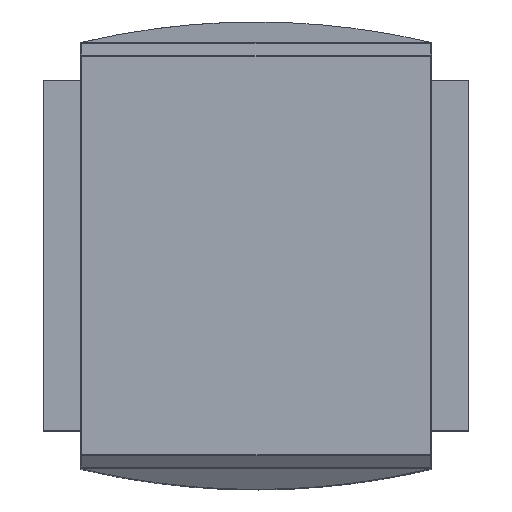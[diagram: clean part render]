
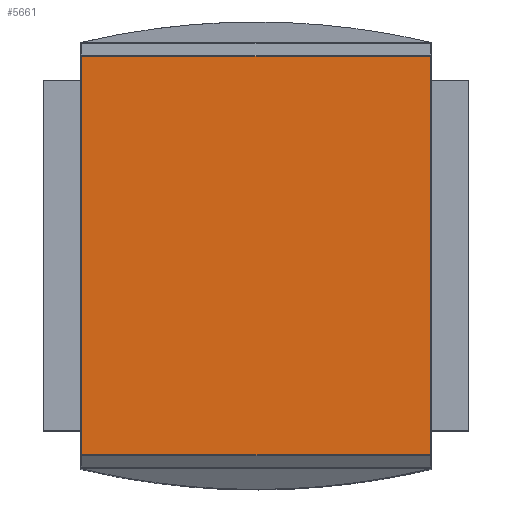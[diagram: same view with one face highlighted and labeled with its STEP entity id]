
A CAD part, top view. The second image highlights one B-rep face of the part: STEP entity #5661.
In plain terms, the highlighted planar face has unit normal (0, 0, 1).
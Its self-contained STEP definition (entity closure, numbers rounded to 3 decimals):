
#5622=CARTESIAN_POINT('',(0.0,0.0,58.));
#5623=DIRECTION('',(0.0,0.0,1.0));
#5624=DIRECTION('',(1.0,0.0,0.0));
#5625=AXIS2_PLACEMENT_3D('',#5622,#5623,#5624);
#5626=PLANE('',#5625);
#5627=CARTESIAN_POINT('',(-34.8,39.812,58.));
#5628=VERTEX_POINT('',#5627);
#5629=CARTESIAN_POINT('',(34.8,39.812,58.));
#5630=VERTEX_POINT('',#5629);
#5631=CARTESIAN_POINT('',(-34.8,39.812,58.));
#5632=DIRECTION('',(1.0,0.0,0.0));
#5633=VECTOR('',#5632,69.6);
#5634=LINE('',#5631,#5633);
#5635=EDGE_CURVE('',#5628,#5630,#5634,.T.);
#5636=ORIENTED_EDGE('',*,*,#5635,.F.);
#5637=CARTESIAN_POINT('',(-34.8,-39.812,58.));
#5638=VERTEX_POINT('',#5637);
#5639=CARTESIAN_POINT('',(-34.8,-39.812,58.));
#5640=DIRECTION('',(0.0,1.0,0.0));
#5641=VECTOR('',#5640,79.624);
#5642=LINE('',#5639,#5641);
#5643=EDGE_CURVE('',#5638,#5628,#5642,.T.);
#5644=ORIENTED_EDGE('',*,*,#5643,.F.);
#5645=CARTESIAN_POINT('',(34.8,-39.812,58.));
#5646=VERTEX_POINT('',#5645);
#5647=CARTESIAN_POINT('',(34.8,-39.812,58.));
#5648=DIRECTION('',(-1.0,0.0,0.0));
#5649=VECTOR('',#5648,69.6);
#5650=LINE('',#5647,#5649);
#5651=EDGE_CURVE('',#5646,#5638,#5650,.T.);
#5652=ORIENTED_EDGE('',*,*,#5651,.F.);
#5653=CARTESIAN_POINT('',(34.8,39.812,58.));
#5654=DIRECTION('',(0.0,-1.0,0.0));
#5655=VECTOR('',#5654,79.624);
#5656=LINE('',#5653,#5655);
#5657=EDGE_CURVE('',#5630,#5646,#5656,.T.);
#5658=ORIENTED_EDGE('',*,*,#5657,.F.);
#5659=EDGE_LOOP('',(#5636,#5644,#5652,#5658));
#5660=FACE_OUTER_BOUND('',#5659,.T.);
#5661=ADVANCED_FACE('',(#5660),#5626,.T.);
